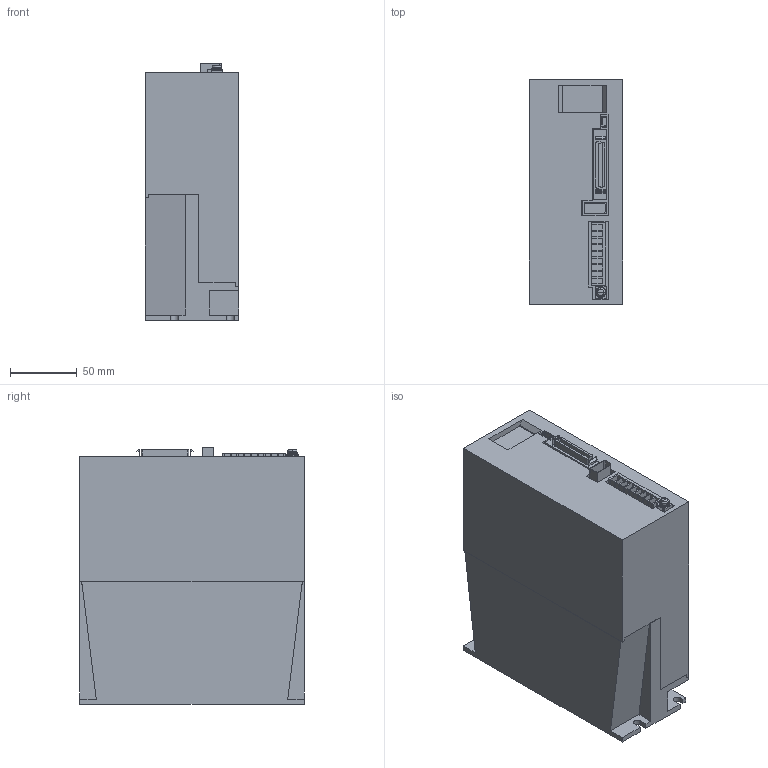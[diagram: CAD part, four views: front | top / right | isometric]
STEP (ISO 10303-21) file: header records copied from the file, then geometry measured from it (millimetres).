
FILE_DESCRIPTION((''),'2;1');
FILE_NAME('MR-JE-70AA_ASM','2013-07-15T',('ES20962'),(''),'PRO/ENGINEER BY PARAMETRIC TECHNOLOGY CORPORATION, 2011490','PRO/ENGINEER BY PARAMETRIC TECHNOLOGY CORPORATION, 2011490','');
FILE_SCHEMA(('CONFIG_CONTROL_DESIGN'));
Length unit declared in the file: millimetre
Products named in the file (9): JE-70-CHASSIS; JE-70A-CASE; J4A-CN1; J4A-CN2; J4A-CN5; JEA-CNP1; JEA-ARTH; SW-PW-P-NA-M4X12-PE; MR-JE-70AA_ASM
Assembly tree (8 placements, depth 2):
  MR-JE-70AA_ASM
    JE-70-CHASSIS
    JE-70A-CASE
    J4A-CN1
    J4A-CN2
    J4A-CN5
    JEA-CNP1
    JEA-ARTH
    SW-PW-P-NA-M4X12-PE
Bounding box: 70 x 168 x 191.95 mm (x, y, z)
Volume: 896378.4 mm3; surface area: 215653.3 mm2
Topology: 8 solids, 8 shells, 250 faces, 647 edges, 429 vertices
Faces by surface type: plane 210, cylinder 34, cone 2, torus 2, sphere 2
Entity records: 7750 total; most frequent: CARTESIAN_POINT 1341, ORIENTED_EDGE 1290, DIRECTION 1257, EDGE_CURVE 645, VECTOR 567, LINE 567, VERTEX_POINT 429, AXIS2_PLACEMENT_3D 345
